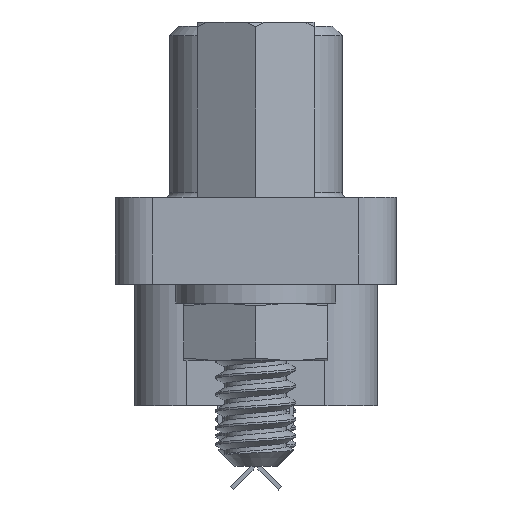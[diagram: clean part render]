
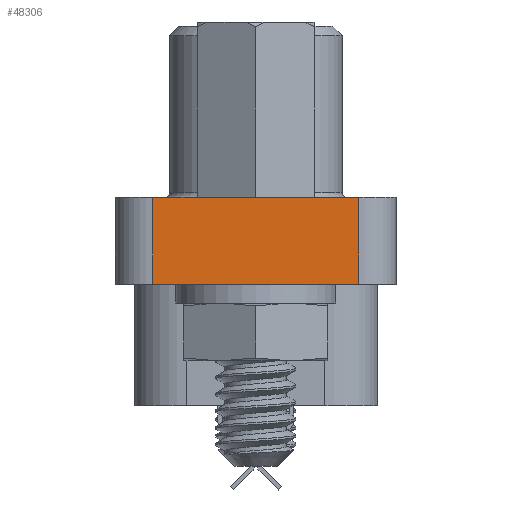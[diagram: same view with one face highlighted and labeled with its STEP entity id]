
A CAD part, left-side view. The second image highlights one B-rep face of the part: STEP entity #48306.
In plain terms, the highlighted planar face has unit normal (-1, 0, 0).
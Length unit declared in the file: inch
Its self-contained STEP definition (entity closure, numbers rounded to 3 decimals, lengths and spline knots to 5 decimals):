
#2025 = CARTESIAN_POINT ( 'NONE',  ( -0.7375, 0.11, 0.042 ) ) ;
#4606 = DIRECTION ( 'NONE',  ( 0., 1., 0. ) ) ;
#5349 = LINE ( 'NONE', #56700, #29155 ) ;
#6350 = VECTOR ( 'NONE', #23972, 39.37008 ) ;
#6578 = CARTESIAN_POINT ( 'NONE',  ( -0.7375, -0.11, 0.042 ) ) ;
#10745 = AXIS2_PLACEMENT_3D ( 'NONE', #6578, #12569, #53087 ) ;
#12569 = DIRECTION ( 'NONE',  ( -1., 0., 0. ) ) ;
#13407 = EDGE_CURVE ( 'NONE', #64148, #53175, #19863, .T. ) ;
#15266 = CARTESIAN_POINT ( 'NONE',  ( -0.7375, -0.11, 0.042 ) ) ;
#17323 = DIRECTION ( 'NONE',  ( 0., 0., -1. ) ) ;
#18649 = EDGE_LOOP ( 'NONE', ( #58587, #31212, #65368, #42458 ) ) ;
#19863 = LINE ( 'NONE', #42730, #34368 ) ;
#21901 = CARTESIAN_POINT ( 'NONE',  ( -0.7375, 0.11, 0.042 ) ) ;
#23490 = PLANE ( 'NONE',  #10745 ) ;
#23972 = DIRECTION ( 'NONE',  ( 0., 0., -1. ) ) ;
#26290 = DIRECTION ( 'NONE',  ( 0., 1., 0. ) ) ;
#29155 = VECTOR ( 'NONE', #4606, 39.37008 ) ;
#31212 = ORIENTED_EDGE ( 'NONE', *, *, #61532, .F. ) ;
#31417 = EDGE_CURVE ( 'NONE', #35210, #53175, #73853, .T. ) ;
#34368 = VECTOR ( 'NONE', #26290, 39.37008 ) ;
#34944 = VERTEX_POINT ( 'NONE', #15266 ) ;
#35210 = VERTEX_POINT ( 'NONE', #2025 ) ;
#37552 = EDGE_CURVE ( 'NONE', #34944, #35210, #5349, .T. ) ;
#39976 = VECTOR ( 'NONE', #17323, 39.37008 ) ;
#41050 = FACE_OUTER_BOUND ( 'NONE', #18649, .T. ) ;
#41501 = CARTESIAN_POINT ( 'NONE',  ( -0.7375, -0.11, 0.042 ) ) ;
#42458 = ORIENTED_EDGE ( 'NONE', *, *, #31417, .T. ) ;
#42730 = CARTESIAN_POINT ( 'NONE',  ( -0.7375, -0.11, -0.051 ) ) ;
#46411 = LINE ( 'NONE', #41501, #6350 ) ;
#48306 = ADVANCED_FACE ( 'NONE', ( #41050 ), #23490, .T. ) ;
#53087 = DIRECTION ( 'NONE',  ( 0., 0., 1. ) ) ;
#53175 = VERTEX_POINT ( 'NONE', #62341 ) ;
#56700 = CARTESIAN_POINT ( 'NONE',  ( -0.7375, -0.11, 0.042 ) ) ;
#58587 = ORIENTED_EDGE ( 'NONE', *, *, #13407, .F. ) ;
#61532 = EDGE_CURVE ( 'NONE', #34944, #64148, #46411, .T. ) ;
#62341 = CARTESIAN_POINT ( 'NONE',  ( -0.7375, 0.11, -0.051 ) ) ;
#64148 = VERTEX_POINT ( 'NONE', #72845 ) ;
#65368 = ORIENTED_EDGE ( 'NONE', *, *, #37552, .T. ) ;
#72845 = CARTESIAN_POINT ( 'NONE',  ( -0.7375, -0.11, -0.051 ) ) ;
#73853 = LINE ( 'NONE', #21901, #39976 ) ;
